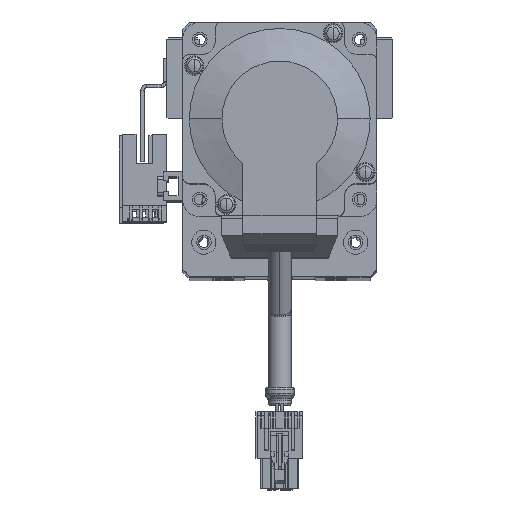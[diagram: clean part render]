
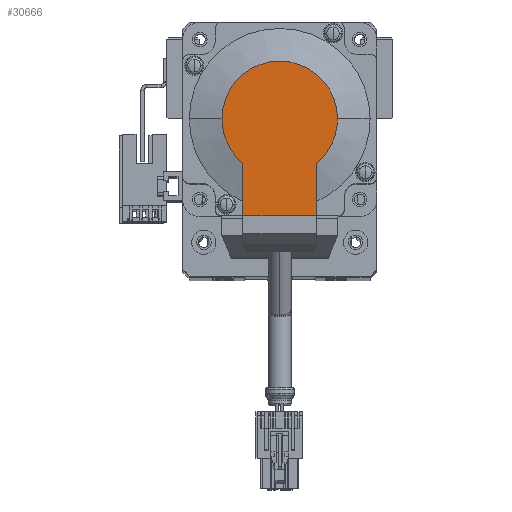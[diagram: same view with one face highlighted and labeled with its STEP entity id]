
A CAD part, top view. The second image highlights one B-rep face of the part: STEP entity #30666.
In plain terms, the highlighted planar face has unit normal (0, 0, 1) as drawn and (-1, 0, 0) by its records, which use the part's own axes.
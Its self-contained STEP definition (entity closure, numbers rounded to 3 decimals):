
#1104 = CARTESIAN_POINT ( 'NONE',  ( -118.5, 0., 0. ) ) ;
#1704 = VERTEX_POINT ( 'NONE', #19058 ) ;
#2231 = DIRECTION ( 'NONE',  ( 0., -1., 0. ) ) ;
#3019 = VERTEX_POINT ( 'NONE', #51869 ) ;
#6825 = DIRECTION ( 'NONE',  ( 0., -1., 0. ) ) ;
#9211 = CARTESIAN_POINT ( 'NONE',  ( -118.5, 0., 0. ) ) ;
#9963 = ORIENTED_EDGE ( 'NONE', *, *, #53928, .T. ) ;
#13310 = DIRECTION ( 'NONE',  ( 0., 0., 1. ) ) ;
#15400 = DIRECTION ( 'NONE',  ( -1., 0., 0. ) ) ;
#19058 = CARTESIAN_POINT ( 'NONE',  ( -118.5, 0., -17.881 ) ) ;
#21729 = CARTESIAN_POINT ( 'NONE',  ( -118.5, -8.941, 0. ) ) ;
#22320 = ORIENTED_EDGE ( 'NONE', *, *, #47278, .T. ) ;
#24100 = AXIS2_PLACEMENT_3D ( 'NONE', #9211, #15400, #41129 ) ;
#26367 = DIRECTION ( 'NONE',  ( 0., 0., -1. ) ) ;
#30118 = PLANE ( 'NONE',  #106507 ) ;
#30666 = ADVANCED_FACE ( 'NONE', ( #81165 ), #30118, .T. ) ;
#31656 = CARTESIAN_POINT ( 'NONE',  ( -118.5, 0., 17.881 ) ) ;
#33460 = DIRECTION ( 'NONE',  ( 0., 0., 1. ) ) ;
#36604 = CIRCLE ( 'NONE', #24100, 17.881 ) ;
#37981 = VECTOR ( 'NONE', #2231, 1000. ) ;
#41129 = DIRECTION ( 'NONE',  ( 0., 0., -1. ) ) ;
#41998 = EDGE_CURVE ( 'NONE', #3019, #1704, #55427, .T. ) ;
#47278 = EDGE_CURVE ( 'NONE', #1704, #61585, #36604, .T. ) ;
#48268 = VERTEX_POINT ( 'NONE', #102809 ) ;
#49113 = VERTEX_POINT ( 'NONE', #51173 ) ;
#50504 = VERTEX_POINT ( 'NONE', #79670 ) ;
#50913 = ORIENTED_EDGE ( 'NONE', *, *, #107139, .F. ) ;
#51173 = CARTESIAN_POINT ( 'NONE',  ( -118.5, 30., -11.45 ) ) ;
#51869 = CARTESIAN_POINT ( 'NONE',  ( -118.5, 13.735, -11.45 ) ) ;
#53928 = EDGE_CURVE ( 'NONE', #49113, #3019, #105324, .T. ) ;
#54506 = CIRCLE ( 'NONE', #108173, 17.881 ) ;
#55427 = CIRCLE ( 'NONE', #87601, 17.881 ) ;
#56779 = ORIENTED_EDGE ( 'NONE', *, *, #76641, .F. ) ;
#61585 = VERTEX_POINT ( 'NONE', #31656 ) ;
#62310 = VECTOR ( 'NONE', #6825, 1000. ) ;
#62807 = CARTESIAN_POINT ( 'NONE',  ( -118.5, -8.941, -11.45 ) ) ;
#64664 = DIRECTION ( 'NONE',  ( 0., 0., -1. ) ) ;
#68442 = DIRECTION ( 'NONE',  ( -1., 0., 0. ) ) ;
#71979 = DIRECTION ( 'NONE',  ( -1., 0., 0. ) ) ;
#76641 = EDGE_CURVE ( 'NONE', #49113, #50504, #109667, .T. ) ;
#77173 = ORIENTED_EDGE ( 'NONE', *, *, #81930, .T. ) ;
#79670 = CARTESIAN_POINT ( 'NONE',  ( -118.5, 30., 11.45 ) ) ;
#81165 = FACE_OUTER_BOUND ( 'NONE', #83337, .T. ) ;
#81930 = EDGE_CURVE ( 'NONE', #61585, #48268, #54506, .T. ) ;
#83070 = CARTESIAN_POINT ( 'NONE',  ( -118.5, 0., 11.45 ) ) ;
#83322 = VECTOR ( 'NONE', #33460, 1000. ) ;
#83337 = EDGE_LOOP ( 'NONE', ( #9963, #108507, #22320, #77173, #50913, #56779 ) ) ;
#87601 = AXIS2_PLACEMENT_3D ( 'NONE', #1104, #68442, #26367 ) ;
#90084 = DIRECTION ( 'NONE',  ( -1., 0., 0. ) ) ;
#90416 = CARTESIAN_POINT ( 'NONE',  ( -118.5, 0., 0. ) ) ;
#91230 = CARTESIAN_POINT ( 'NONE',  ( -118.5, 30., 25. ) ) ;
#100420 = LINE ( 'NONE', #83070, #62310 ) ;
#102809 = CARTESIAN_POINT ( 'NONE',  ( -118.5, 13.735, 11.45 ) ) ;
#105324 = LINE ( 'NONE', #62807, #37981 ) ;
#106507 = AXIS2_PLACEMENT_3D ( 'NONE', #21729, #90084, #13310 ) ;
#107139 = EDGE_CURVE ( 'NONE', #50504, #48268, #100420, .T. ) ;
#108173 = AXIS2_PLACEMENT_3D ( 'NONE', #90416, #71979, #64664 ) ;
#108507 = ORIENTED_EDGE ( 'NONE', *, *, #41998, .T. ) ;
#109667 = LINE ( 'NONE', #91230, #83322 ) ;
